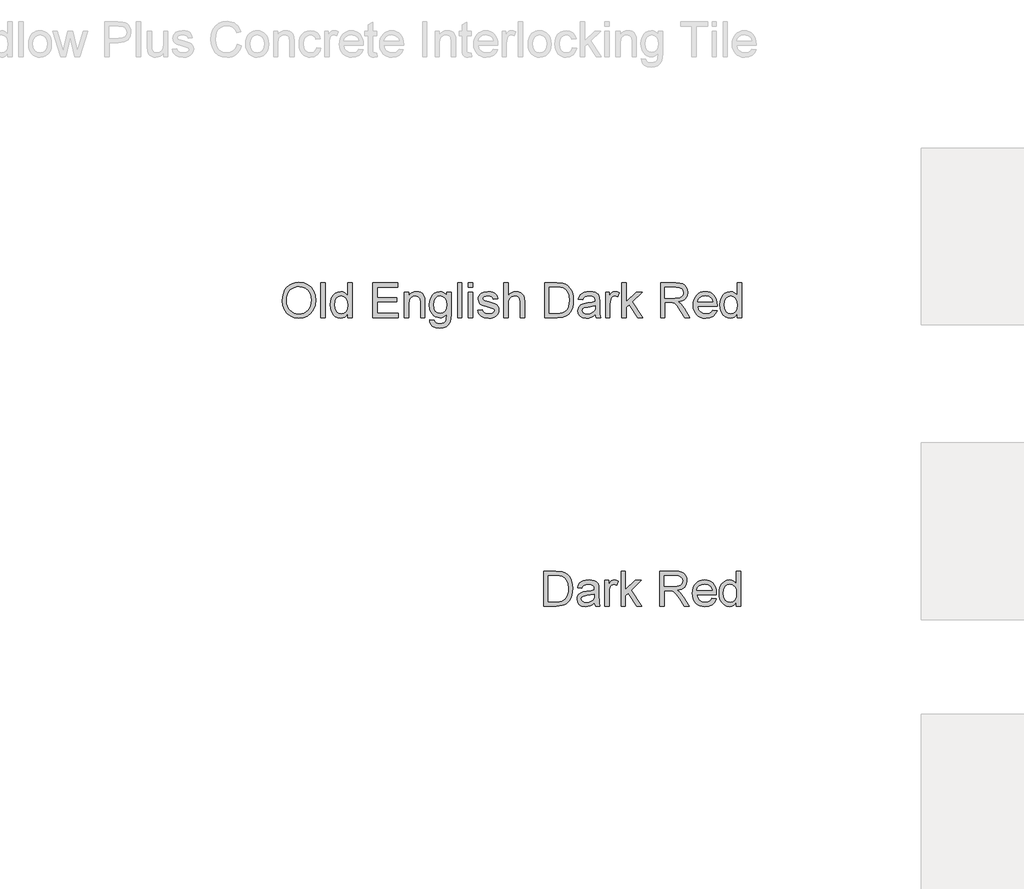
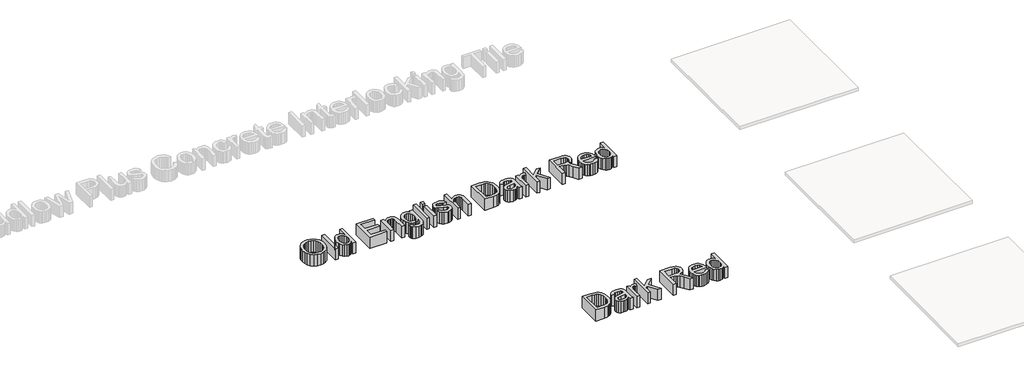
# One storey, part 4 of 5: 2 proxies.
"""IFC4 building model written with IfcOpenShell, lengths in millimetres."""

from ifc_helpers import new_model, si_unit, frame, origin, place, context, project, spatial, polyline, outline, extrude, element, save

model = new_model("IFC4")

# Units and contexts
model_context = context("Model", 3, world=origin())
ifc_project = project(units=[si_unit("LENGTHUNIT", "METRE", prefix="MILLI")], contexts=[model_context])

# Site, building, storey
site = spatial("IfcSite", under=ifc_project)
building = spatial("IfcBuilding", under=site)
storey = spatial("IfcBuildingStorey", under=building, Name="Marley Concrete Interlocking Tile", Elevation=3000.0)

# Proxies
placement = place(None, origin())
element("IfcBuildingElementProxy", 1, Name="600mm Arial", ObjectType="600mm Arial", at=placement, inside=storey, context=model_context, shape_type="SweptSolid", body=[
    extrude(outline(polyline([(-16777.6867576, 3828.6416065), (-16775.2258201, 3863.2885416), (-16767.8430076, 3893.9601161), (-16755.5383201, 3920.6563301), (-16738.3117576, 3943.3771834), (-16717.1954715, 3961.5187099), (-16693.2216134, 3974.476943), (-16666.3901831, 3982.251883), (-16636.7011807, 3984.8435296), (-16597.9571903, 3979.9757411), (-16563.2156038, 3965.3723757), (-16534.3694499, 3942.0610777), (-16513.3117576, 3911.0694911), (-16500.4391615, 3873.8940104), (-16496.1482961, 3832.0310296), (-16500.664522, 3789.6091546), (-16514.2131999, 3751.9108373), (-16536.0461326, 3720.8651642), (-16565.415123, 3698.4012219), (-16599.8592336, 3684.7714142), (-16636.9175268, 3680.228145), (-16676.2564691, 3685.2491786), (-16711.196373, 3700.3122796), (-16739.9704115, 3724.05627), (-16760.8117576, 3755.1199719), (-16773.4680076, 3790.8621594), (-16777.6867576, 3828.6416065)]), holes=[polyline([(-16740.7636807, 3828.2810296), (-16738.9179776, 3803.8023637), (-16733.3808682, 3782.0730969), (-16724.1523526, 3763.0932291), (-16711.2324307, 3746.8627604), (-16695.5270521, 3733.8639623), (-16677.9421663, 3724.5791065), (-16658.4777732, 3719.008193), (-16637.133873, 3717.1512219), (-16615.4248886, 3719.0262219), (-16595.7306278, 3724.6512219), (-16578.0510905, 3734.0262219), (-16562.3862768, 3747.1512219), (-16549.5610064, 3763.7242387), (-16540.400099, 3783.4432892), (-16534.9035545, 3806.3083733), (-16533.071373, 3832.3194911), (-16536.2083922, 3865.0057892), (-16545.6194499, 3893.2569911), (-16561.0611566, 3916.3609575), (-16582.290123, 3933.6055488), (-16607.900099, 3944.3417267), (-16636.4848345, 3947.9204527), (-16657.0872985, 3946.1964442), (-16676.2023826, 3941.024419), (-16693.8300869, 3932.4043769), (-16709.9704115, 3920.336318), (-16723.4424667, 3904.238812), (-16733.0653634, 3883.5304286), (-16738.8391014, 3858.2111678), (-16740.7636807, 3828.2810296)])]), frame((0.0, 0.0, 3000.0), z_axis=(0.0, 0.0, 1.0), x_axis=(1.0, 0.0, 0.0)), (0.0, 0.0, 1.0), 150.0),
    extrude(outline(polyline([(-16449.9944499, 3684.8435296), (-16449.9944499, 3980.228145), (-16413.071373, 3980.228145), (-16413.071373, 3684.8435296), (-16449.9944499, 3684.8435296)])), frame((0.0, 0.0, 3000.0), z_axis=(0.0, 0.0, 1.0), x_axis=(1.0, 0.0, 0.0)), (0.0, 0.0, 1.0), 150.0),
    extrude(outline(polyline([(-16223.8406038, 3684.8435296), (-16223.8406038, 3719.6752604), (-16234.8877792, 3702.4171474), (-16248.2696903, 3690.0899238), (-16263.9863369, 3682.6935897), (-16282.0377191, 3680.228145), (-16305.9079115, 3683.7978565), (-16327.758873, 3694.5069911), (-16346.2564691, 3711.6073517), (-16360.0665653, 3734.3507411), (-16368.6663249, 3761.8176882), (-16371.5329115, 3793.0887219), (-16368.8916855, 3823.9721354), (-16360.9680076, 3851.8627604), (-16347.7708922, 3875.1740584), (-16329.3093538, 3892.3194911), (-16306.9806278, 3902.8663661), (-16282.1819499, 3906.3819911), (-16264.1170461, 3903.8669671), (-16248.1434884, 3896.321895), (-16234.6038249, 3884.7563902), (-16223.8406038, 3870.180068), (-16223.8406038, 3980.228145), (-16186.9175268, 3980.228145), (-16186.9175268, 3684.8435296), (-16223.8406038, 3684.8435296)]), holes=[polyline([(-16334.6098345, 3793.2329527), (-16330.4451711, 3759.8345152), (-16317.9511807, 3736.0815104), (-16299.7961326, 3721.883794), (-16278.6482961, 3717.1512219), (-16257.509474, 3721.6674479), (-16239.8141615, 3735.2161257), (-16227.8339932, 3758.0496594), (-16223.8406038, 3790.4204527), (-16227.9061086, 3825.8110777), (-16240.102623, 3850.3483373), (-16258.2486566, 3864.68127), (-16280.1627191, 3869.4589142), (-16301.5269018, 3864.8705729), (-16319.0329115, 3851.1055488), (-16330.7156038, 3827.4607171), (-16334.6098345, 3793.2329527)])]), frame((0.0, 0.0, 3000.0), z_axis=(0.0, 0.0, 1.0), x_axis=(1.0, 0.0, 0.0)), (0.0, 0.0, 1.0), 150.0),
    extrude(outline(polyline([(-16011.5329115, 3684.8435296), (-16011.5329115, 3980.228145), (-15799.2252191, 3980.228145), (-15799.2252191, 3943.305068), (-15974.6098345, 3943.305068), (-15974.6098345, 3855.6127604), (-15808.4559884, 3855.6127604), (-15808.4559884, 3818.6896834), (-15974.6098345, 3818.6896834), (-15974.6098345, 3721.7666065), (-15794.6098345, 3721.7666065), (-15794.6098345, 3684.8435296), (-16011.5329115, 3684.8435296)])), frame((0.0, 0.0, 3000.0), z_axis=(0.0, 0.0, 1.0), x_axis=(1.0, 0.0, 0.0)), (0.0, 0.0, 1.0), 150.0),
    extrude(outline(polyline([(-15743.8406038, 3684.8435296), (-15743.8406038, 3901.7666065), (-15706.9175268, 3901.7666065), (-15706.9175268, 3871.478145), (-15694.0900028, 3886.7485777), (-15678.6843538, 3897.6560296), (-15660.7005797, 3904.2005007), (-15640.1386807, 3906.3819911), (-15621.9385605, 3904.6241786), (-15605.2708922, 3899.3507411), (-15591.3706518, 3891.2197315), (-15581.4728153, 3880.8892027), (-15570.4031038, 3853.7377604), (-15568.4559884, 3818.040645), (-15568.4559884, 3684.8435296), (-15605.3790653, 3684.8435296), (-15605.3790653, 3813.0646834), (-15609.633873, 3845.7329527), (-15615.5202913, 3855.4595152), (-15624.6699307, 3863.0045873), (-15636.3976951, 3867.8453325), (-15650.0184884, 3869.4589142), (-15671.6440893, 3865.8351161), (-15690.0785845, 3854.9637219), (-15697.4456218, 3846.0890224), (-15702.7077913, 3833.9601161), (-15706.9175268, 3799.9396834), (-15706.9175268, 3684.8435296), (-15743.8406038, 3684.8435296)])), frame((0.0, 0.0, 3000.0), z_axis=(0.0, 0.0, 1.0), x_axis=(1.0, 0.0, 0.0)), (0.0, 0.0, 1.0), 150.0),
    extrude(outline(polyline([(-15526.9175268, 3666.3819911), (-15489.9944499, 3661.7666065), (-15485.9199307, 3650.228145), (-15478.0232961, 3642.2954527), (-15462.5004595, 3636.1295873), (-15442.1819499, 3634.0742988), (-15420.5112768, 3636.40002), (-15404.3934884, 3643.3771834), (-15393.2156038, 3654.555068), (-15386.3646422, 3669.4829527), (-15383.8406038, 3712.5358373), (-15396.1272624, 3700.4204527), (-15409.8381999, 3691.7666065), (-15424.9734163, 3686.5742988), (-15441.5329115, 3684.8435296), (-15461.7770521, 3686.8582531), (-15479.6008201, 3692.9024238), (-15495.0042155, 3702.9760416), (-15507.9872384, 3717.0791065), (-15518.2884703, 3733.9991786), (-15525.6464932, 3752.523818), (-15531.5329115, 3794.3867988), (-15528.8916855, 3824.1974959), (-15520.9680076, 3851.6103565), (-15508.0413249, 3874.8405248), (-15490.3910845, 3892.103145), (-15468.6212528, 3902.8122796), (-15443.3357961, 3906.3819911), (-15426.0686687, 3904.3627604), (-15410.3970941, 3898.305068), (-15396.3210725, 3888.2089142), (-15383.8406038, 3874.0742988), (-15383.8406038, 3901.7666065), (-15346.9175268, 3901.7666065), (-15346.9175268, 3714.4829527), (-15349.4415653, 3671.2407652), (-15357.0136807, 3642.7642027), (-15370.0575509, 3623.8789863), (-15388.9968538, 3609.4108373), (-15413.4169259, 3600.2161257), (-15442.9031038, 3597.1512219), (-15477.2570701, 3601.4691305), (-15504.3093538, 3614.4228565), (-15514.4979054, 3624.1471654), (-15521.6621182, 3636.0484575), (-15525.801992, 3650.1267327), (-15526.9175268, 3666.3819911)]), holes=[polyline([(-15494.6098345, 3796.9108373), (-15490.6705316, 3763.0436498), (-15478.852623, 3739.759395), (-15461.0851951, 3726.2648036), (-15439.2973345, 3721.7666065), (-15417.6717336, 3726.2377604), (-15399.8141615, 3739.6512219), (-15387.8339932, 3762.6380007), (-15383.8406038, 3795.8291065), (-15387.9511807, 3827.8393229), (-15400.2829115, 3850.8892027), (-15418.4019018, 3864.8164863), (-15439.8742576, 3869.4589142), (-15460.9589932, 3864.8886017), (-15478.6362768, 3851.1776642), (-15490.6164451, 3828.4703325), (-15494.6098345, 3796.9108373)])]), frame((0.0, 0.0, 3000.0), z_axis=(0.0, 0.0, 1.0), x_axis=(1.0, 0.0, 0.0)), (0.0, 0.0, 1.0), 150.0),
    extrude(outline(polyline([(-15291.5329115, 3684.8435296), (-15291.5329115, 3980.228145), (-15254.6098345, 3980.228145), (-15254.6098345, 3684.8435296), (-15291.5329115, 3684.8435296)])), frame((0.0, 0.0, 3000.0), z_axis=(0.0, 0.0, 1.0), x_axis=(1.0, 0.0, 0.0)), (0.0, 0.0, 1.0), 150.0),
    extrude(outline(polyline([(-15199.2252191, 3684.8435296), (-15199.2252191, 3901.7666065), (-15162.3021422, 3901.7666065), (-15162.3021422, 3684.8435296), (-15199.2252191, 3684.8435296)])), frame((0.0, 0.0, 3000.0), z_axis=(0.0, 0.0, 1.0), x_axis=(1.0, 0.0, 0.0)), (0.0, 0.0, 1.0), 150.0),
    extrude(outline(polyline([(-15199.2252191, 3943.305068), (-15199.2252191, 3980.228145), (-15162.3021422, 3980.228145), (-15162.3021422, 3943.305068), (-15199.2252191, 3943.305068)])), frame((0.0, 0.0, 3000.0), z_axis=(0.0, 0.0, 1.0), x_axis=(1.0, 0.0, 0.0)), (0.0, 0.0, 1.0), 150.0),
    extrude(outline(polyline([(-15120.7636807, 3749.4589142), (-15083.8406038, 3754.0742988), (-15078.0172865, 3738.2810296), (-15066.7492576, 3726.6704527), (-15049.9644018, 3719.5310296), (-15027.5906038, 3717.1512219), (-15005.4872384, 3719.3327123), (-14989.946373, 3725.8771834), (-14980.7516615, 3735.3603565), (-14977.6867576, 3746.3579527), (-14980.7696903, 3755.7690104), (-14990.0184884, 3762.9444911), (-15028.0232961, 3773.4733373), (-15083.6242576, 3791.5382411), (-15097.695772, 3800.6157652), (-15107.8910845, 3812.6319911), (-15114.0839932, 3826.820693), (-15116.1482961, 3842.415645), (-15114.4896422, 3856.7215344), (-15109.5136807, 3869.9276642), (-15101.6711326, 3881.5111979), (-15091.4127191, 3890.9492988), (-15067.9391615, 3901.8747796), (-15036.1723345, 3906.3819911), (-15012.1398826, 3904.5700921), (-14991.2444499, 3899.134395), (-14974.4415653, 3890.6067507), (-14962.6867576, 3879.5190104), (-14954.8982961, 3865.0508613), (-14949.9944499, 3846.3819911), (-14986.9175268, 3841.7666065), (-14991.5779836, 3853.3861979), (-15000.7997384, 3862.1392027), (-15014.6729355, 3867.6289863), (-15033.2877191, 3869.4589142), (-15054.4896422, 3867.7101161), (-15068.6242576, 3862.4637219), (-15076.5749788, 3854.8916065), (-15079.2252191, 3846.165645), (-15074.8261807, 3835.4204527), (-15061.0521422, 3827.2714142), (-15029.2492576, 3819.4108373), (-14975.0545461, 3802.0310296), (-14960.7396422, 3793.7197315), (-14949.8862768, 3782.3435296), (-14943.0443297, 3767.8663661), (-14940.7636807, 3750.2521834), (-14943.4409643, 3732.0430488), (-14951.4728153, 3714.915645), (-14964.5527432, 3700.2131209), (-14982.3742576, 3689.2786257), (-15003.9006999, 3682.4907652), (-15028.0954115, 3680.228145), (-15065.3249788, 3684.5911257), (-15092.4944499, 3697.680068), (-15110.6314691, 3719.3507411), (-15120.7636807, 3749.4589142)])), frame((0.0, 0.0, 3000.0), z_axis=(0.0, 0.0, 1.0), x_axis=(1.0, 0.0, 0.0)), (0.0, 0.0, 1.0), 150.0),
    extrude(outline(polyline([(-14899.2252191, 3684.8435296), (-14899.2252191, 3980.228145), (-14862.3021422, 3980.228145), (-14862.3021422, 3871.6223757), (-14848.7399427, 3886.8297075), (-14833.5100749, 3897.6920873), (-14816.6125389, 3904.2095152), (-14798.0473345, 3906.3819911), (-14775.7456518, 3904.0111979), (-14756.5809884, 3896.898818), (-14741.4908441, 3885.6037459), (-14731.4127191, 3870.6848757), (-14725.7336326, 3850.1860777), (-14723.8406038, 3822.1512219), (-14723.8406038, 3684.8435296), (-14760.7636807, 3684.8435296), (-14760.7636807, 3818.3291065), (-14763.7023826, 3841.4420873), (-14772.5184884, 3857.2714142), (-14786.7252191, 3866.4120392), (-14805.8357961, 3869.4589142), (-14821.4397624, 3867.4036257), (-14836.0881999, 3861.2377604), (-14848.2216134, 3851.55627), (-14856.2805076, 3838.9541065), (-14860.7967336, 3822.2053084), (-14862.3021422, 3800.0839142), (-14862.3021422, 3684.8435296), (-14899.2252191, 3684.8435296)])), frame((0.0, 0.0, 3000.0), z_axis=(0.0, 0.0, 1.0), x_axis=(1.0, 0.0, 0.0)), (0.0, 0.0, 1.0), 150.0),
    extrude(outline(polyline([(-14553.071373, 3684.8435296), (-14553.071373, 3980.228145), (-14451.1723345, 3980.228145), (-14398.4559884, 3975.9733373), (-14374.9103153, 3967.7702123), (-14355.0425268, 3954.8435296), (-14334.6158441, 3932.3435296), (-14320.0665653, 3904.3627604), (-14311.3586326, 3871.4420873), (-14308.4559884, 3834.1223757), (-14310.4211326, 3802.4186498), (-14316.3165653, 3774.5190104), (-14325.2949307, 3750.7660055), (-14336.508873, 3731.5021834), (-14349.4175268, 3716.2948517), (-14363.4800268, 3704.711318), (-14379.6248586, 3696.1205729), (-14398.7805076, 3689.8916065), (-14446.2684884, 3684.8435296), (-14553.071373, 3684.8435296)]), holes=[polyline([(-14516.1482961, 3721.7666065), (-14450.8117576, 3721.7666065), (-14423.7865172, 3723.1007411), (-14403.2877191, 3727.103145), (-14387.8189691, 3733.539443), (-14375.883873, 3742.1752604), (-14363.056349, 3758.1578325), (-14353.4199307, 3778.8459334), (-14347.3892816, 3804.3297075), (-14345.3790653, 3834.6992988), (-14349.3183682, 3874.9396834), (-14361.1362768, 3904.6512219), (-14378.5972143, 3925.0598757), (-14399.4656038, 3937.3916065), (-14420.7035845, 3941.8267027), (-14451.821373, 3943.305068), (-14516.1482961, 3943.305068), (-14516.1482961, 3721.7666065)])]), frame((0.0, 0.0, 3000.0), z_axis=(0.0, 0.0, 1.0), x_axis=(1.0, 0.0, 0.0)), (0.0, 0.0, 1.0), 150.0),
    extrude(outline(polyline([(-14123.8406038, 3712.5358373), (-14141.4818297, 3697.4096354), (-14159.6458922, 3687.5117988), (-14178.7474547, 3682.0490584), (-14199.2011807, 3680.228145), (-14230.0575509, 3684.6091546), (-14252.8189691, 3697.7521834), (-14266.8544259, 3717.7101161), (-14271.5329115, 3742.5358373), (-14269.7660845, 3757.8423277), (-14264.4656038, 3771.742568), (-14256.289522, 3783.6416065), (-14245.8958922, 3792.9444911), (-14220.0425268, 3805.0598757), (-14188.0954115, 3810.6127604), (-14150.3430076, 3816.4541065), (-14124.0569499, 3823.305068), (-14123.8406038, 3831.5262219), (-14126.3826711, 3848.0045873), (-14134.008873, 3858.7858373), (-14151.0641615, 3866.790645), (-14174.8261807, 3869.4589142), (-14196.821373, 3867.6830729), (-14212.1819499, 3862.3555488), (-14222.6567095, 3852.5027844), (-14229.9944499, 3837.1512219), (-14266.9175268, 3841.7666065), (-14260.508272, 3861.9589142), (-14250.9439691, 3877.8242988), (-14237.3321903, 3889.9577123), (-14218.7805076, 3898.9541065), (-14196.0912047, 3904.52502), (-14170.0665653, 3906.3819911), (-14145.1056278, 3904.7413661), (-14125.3189691, 3899.8194911), (-14110.400099, 3892.4186498), (-14100.0425268, 3883.3411257), (-14093.1735365, 3872.118169), (-14088.7204115, 3858.2810296), (-14086.9175268, 3825.9733373), (-14086.9175268, 3780.0358373), (-14085.0425268, 3715.8892027), (-14077.6867576, 3684.8435296), (-14114.6098345, 3684.8435296), (-14123.8406038, 3712.5358373)]), holes=[polyline([(-14123.8406038, 3786.3819911), (-14183.4079115, 3775.0598757), (-14215.1747384, 3769.0742988), (-14229.5617576, 3759.3387219), (-14234.6098345, 3745.1319911), (-14231.8604355, 3734.1524238), (-14223.6122384, 3725.1560296), (-14210.0455316, 3719.1524238), (-14191.3406038, 3717.1512219), (-14171.508873, 3719.3597555), (-14153.9848345, 3725.9853565), (-14139.7781038, 3735.7479767), (-14129.8982961, 3747.367568), (-14125.5172865, 3759.3387219), (-14124.0569499, 3775.9252604), (-14123.8406038, 3786.3819911)])]), frame((0.0, 0.0, 3000.0), z_axis=(0.0, 0.0, 1.0), x_axis=(1.0, 0.0, 0.0)), (0.0, 0.0, 1.0), 150.0),
    extrude(outline(polyline([(-14036.1482961, 3684.8435296), (-14036.1482961, 3901.7666065), (-14003.8406038, 3901.7666065), (-14003.8406038, 3869.6752604), (-13991.9055076, 3888.2810296), (-13980.9079115, 3899.242568), (-13969.8742576, 3904.5971354), (-13957.8309884, 3906.3819911), (-13939.4415653, 3903.5334334), (-13920.7636807, 3894.9877604), (-13933.0954115, 3861.8867988), (-13946.0761807, 3867.5658854), (-13959.0569499, 3869.4589142), (-13970.0815893, 3867.6380007), (-13979.9343538, 3862.1752604), (-13987.8940893, 3853.4853565), (-13993.2396422, 3841.9829527), (-13997.7288249, 3821.3579527), (-13999.2252191, 3798.8579527), (-13999.2252191, 3684.8435296), (-14036.1482961, 3684.8435296)])), frame((0.0, 0.0, 3000.0), z_axis=(0.0, 0.0, 1.0), x_axis=(1.0, 0.0, 0.0)), (0.0, 0.0, 1.0), 150.0),
    extrude(outline(polyline([(-13897.6867576, 3684.8435296), (-13897.6867576, 3980.228145), (-13860.7636807, 3980.228145), (-13860.7636807, 3821.5021834), (-13777.9752191, 3901.7666065), (-13726.9175268, 3901.7666065), (-13810.7156038, 3820.492568), (-13722.3021422, 3684.8435296), (-13765.4271422, 3684.8435296), (-13837.1819499, 3794.8194911), (-13860.7636807, 3771.9589142), (-13860.7636807, 3684.8435296), (-13897.6867576, 3684.8435296)])), frame((0.0, 0.0, 3000.0), z_axis=(0.0, 0.0, 1.0), x_axis=(1.0, 0.0, 0.0)), (0.0, 0.0, 1.0), 150.0),
    extrude(outline(polyline([(-13569.9944499, 3684.8435296), (-13569.9944499, 3980.228145), (-13442.7107961, 3980.228145), (-13408.5010605, 3978.2359575), (-13383.6122384, 3972.259395), (-13365.4211326, 3961.2257411), (-13351.3045461, 3944.0622796), (-13342.2450509, 3922.7792267), (-13339.2252191, 3899.3867988), (-13344.228224, 3870.2882411), (-13359.2372384, 3846.165645), (-13370.6066795, 3836.3354166), (-13384.7029836, 3828.4793469), (-13421.0761807, 3818.6896834), (-13400.0906038, 3802.8964142), (-13370.1627191, 3764.8916065), (-13320.9079115, 3684.8435296), (-13363.8165653, 3684.8435296), (-13402.2540653, 3746.0694911), (-13430.0184884, 3786.5983373), (-13449.5256999, 3805.7449719), (-13467.0857961, 3812.7762219), (-13488.5040653, 3814.0742988), (-13533.071373, 3814.0742988), (-13533.071373, 3684.8435296), (-13569.9944499, 3684.8435296)]), holes=[polyline([(-13533.071373, 3850.9973757), (-13450.4271422, 3850.9973757), (-13426.6921663, 3852.3044671), (-13408.2756999, 3856.2257411), (-13394.4115172, 3863.0226161), (-13384.3333922, 3872.9565104), (-13378.1945701, 3884.9727363), (-13376.1482961, 3898.0166065), (-13380.0515413, 3916.0274238), (-13391.7612768, 3930.540645), (-13411.9085124, 3940.1139623), (-13441.1242576, 3943.305068), (-13533.071373, 3943.305068), (-13533.071373, 3850.9973757)])]), frame((0.0, 0.0, 3000.0), z_axis=(0.0, 0.0, 1.0), x_axis=(1.0, 0.0, 0.0)), (0.0, 0.0, 1.0), 150.0),
    extrude(outline(polyline([(-13127.3502191, 3749.4589142), (-13091.1482961, 3744.8435296), (-13104.1921663, 3717.5658854), (-13125.0064691, 3697.1752604), (-13153.1224547, 3684.4649238), (-13188.071373, 3680.228145), (-13210.9815292, 3682.0558192), (-13231.3946903, 3687.5388421), (-13249.3108562, 3696.6772135), (-13264.7300268, 3709.4709334), (-13277.1293658, 3725.5639322), (-13285.9860365, 3744.6001402), (-13291.3000389, 3766.5795572), (-13293.071373, 3791.5021834), (-13291.28201, 3817.2699118), (-13285.9139211, 3839.9817507), (-13276.9671062, 3859.6377003), (-13264.4415653, 3876.2377604), (-13249.0629595, 3889.4258613), (-13231.5569499, 3898.8459334), (-13211.9235365, 3904.4979767), (-13190.1627191, 3906.3819911), (-13169.1027732, 3904.5024839), (-13150.0575509, 3898.8639623), (-13133.0270521, 3889.4664262), (-13118.0112768, 3876.3098757), (-13105.7539151, 3859.7458733), (-13096.9986566, 3840.1259815), (-13091.7455016, 3817.4502003), (-13089.9944499, 3791.7185296), (-13090.2107961, 3781.7666065), (-13256.1482961, 3781.7666065), (-13249.7570701, 3754.1283854), (-13234.9103153, 3733.8098757), (-13213.4830316, 3721.3158854), (-13187.3502191, 3717.1512219), (-13167.6987768, 3719.0803084), (-13151.1482961, 3724.867568), (-13137.6987768, 3734.8735777), (-13127.3502191, 3749.4589142)]), holes=[polyline([(-13256.1482961, 3818.6896834), (-13126.9175268, 3818.6896834), (-13131.9115172, 3838.196895), (-13141.7011807, 3852.1512219), (-13163.227623, 3865.1319911), (-13190.3069499, 3869.4589142), (-13215.195772, 3866.0063902), (-13235.7756999, 3855.648818), (-13250.0815893, 3839.5039863), (-13256.1482961, 3818.6896834)])]), frame((0.0, 0.0, 3000.0), z_axis=(0.0, 0.0, 1.0), x_axis=(1.0, 0.0, 0.0)), (0.0, 0.0, 1.0), 150.0),
    extrude(outline(polyline([(-12919.2252191, 3684.8435296), (-12919.2252191, 3719.6752604), (-12930.2723946, 3702.4171474), (-12943.6543057, 3690.0899238), (-12959.3709523, 3682.6935897), (-12977.4223345, 3680.228145), (-13001.2925268, 3683.7978565), (-13023.1434884, 3694.5069911), (-13041.6410845, 3711.6073517), (-13055.4511807, 3734.3507411), (-13064.0509403, 3761.8176882), (-13066.9175268, 3793.0887219), (-13064.2763009, 3823.9721354), (-13056.352623, 3851.8627604), (-13043.1555076, 3875.1740584), (-13024.6939691, 3892.3194911), (-13002.3652432, 3902.8663661), (-12977.5665653, 3906.3819911), (-12959.5016615, 3903.8669671), (-12943.5281038, 3896.321895), (-12929.9884403, 3884.7563902), (-12919.2252191, 3870.180068), (-12919.2252191, 3980.228145), (-12882.3021422, 3980.228145), (-12882.3021422, 3684.8435296), (-12919.2252191, 3684.8435296)]), holes=[polyline([(-13029.9944499, 3793.2329527), (-13025.8297865, 3759.8345152), (-13013.3357961, 3736.0815104), (-12995.180748, 3721.883794), (-12974.0329115, 3717.1512219), (-12952.8940893, 3721.6674479), (-12935.1987768, 3735.2161257), (-12923.2186086, 3758.0496594), (-12919.2252191, 3790.4204527), (-12923.290724, 3825.8110777), (-12935.4872384, 3850.3483373), (-12953.633272, 3864.68127), (-12975.5473345, 3869.4589142), (-12996.9115172, 3864.8705729), (-13014.4175268, 3851.1055488), (-13026.1002191, 3827.4607171), (-13029.9944499, 3793.2329527)])]), frame((0.0, 0.0, 3000.0), z_axis=(0.0, 0.0, 1.0), x_axis=(1.0, 0.0, 0.0)), (0.0, 0.0, 1.0), 150.0),
])
element("IfcBuildingElementProxy", 2, Name="600mm Arial", ObjectType="600mm Arial", at=placement, inside=storey, context=model_context, shape_type="SweptSolid", body=[
    extrude(outline(polyline([(-14559.8660505, 1239.3040272), (-14559.8660505, 1534.6886425), (-14457.967012, 1534.6886425), (-14405.2506658, 1530.4338349), (-14381.7049928, 1522.2307099), (-14361.8372043, 1509.3040272), (-14341.4105216, 1486.8040272), (-14326.8612428, 1458.8232579), (-14318.1533101, 1425.9025849), (-14315.2506658, 1388.5828733), (-14317.2158101, 1356.8791474), (-14323.1112428, 1328.9795079), (-14332.0896081, 1305.2265031), (-14343.3035505, 1285.962681), (-14356.2122043, 1270.7553493), (-14370.2747043, 1259.1718156), (-14386.419536, 1250.5810704), (-14405.5751851, 1244.3521041), (-14453.0631658, 1239.3040272), (-14559.8660505, 1239.3040272)]), holes=[polyline([(-14522.9429735, 1276.2271041), (-14457.6064351, 1276.2271041), (-14430.5811947, 1277.5612387), (-14410.0823966, 1281.5636425), (-14394.6136466, 1287.9999406), (-14382.6785505, 1296.6357579), (-14369.8510264, 1312.61833), (-14360.2146081, 1333.306431), (-14354.1839591, 1358.790205), (-14352.1737428, 1389.1597964), (-14356.1130456, 1429.400181), (-14367.9309543, 1459.1117195), (-14385.3918918, 1479.5203733), (-14406.2602812, 1491.8521041), (-14427.498262, 1496.2872002), (-14458.6160505, 1497.7655656), (-14522.9429735, 1497.7655656), (-14522.9429735, 1276.2271041)])]), frame((0.0, 0.0, 3000.0), z_axis=(0.0, 0.0, 1.0), x_axis=(1.0, 0.0, 0.0)), (0.0, 0.0, 1.0), 150.0),
    extrude(outline(polyline([(-14130.6352812, 1266.9963349), (-14148.2765072, 1251.8701329), (-14166.4405697, 1241.9722964), (-14185.5421322, 1236.509556), (-14205.9958581, 1234.6886425), (-14236.8522283, 1239.0696522), (-14259.6136466, 1252.212681), (-14273.6491033, 1272.1706137), (-14278.3275889, 1296.9963349), (-14276.560762, 1312.3028252), (-14271.2602812, 1326.2030656), (-14263.0841995, 1338.1021041), (-14252.6905697, 1347.4049887), (-14226.8372043, 1359.5203733), (-14194.8900889, 1365.0732579), (-14157.1376851, 1370.9146041), (-14130.8516274, 1377.7655656), (-14130.6352812, 1385.9867195), (-14133.1773485, 1402.4650849), (-14140.8035505, 1413.2463349), (-14157.8588389, 1421.2511425), (-14181.6208581, 1423.9194118), (-14203.6160505, 1422.1435704), (-14218.9766274, 1416.8160464), (-14229.451387, 1406.963282), (-14236.7891274, 1391.6117195), (-14273.7122043, 1396.2271041), (-14267.3029495, 1416.4194118), (-14257.7386466, 1432.2847964), (-14244.1268678, 1444.4182099), (-14225.5751851, 1453.4146041), (-14202.8858822, 1458.9855175), (-14176.8612428, 1460.8424887), (-14151.9003053, 1459.2018637), (-14132.1136466, 1454.2799887), (-14117.1947764, 1446.8791474), (-14106.8372043, 1437.8016233), (-14099.9682139, 1426.5786666), (-14095.5150889, 1412.7415272), (-14093.7122043, 1380.4338349), (-14093.7122043, 1334.4963349), (-14091.8372043, 1270.3497002), (-14084.4814351, 1239.3040272), (-14121.404512, 1239.3040272), (-14130.6352812, 1266.9963349)]), holes=[polyline([(-14130.6352812, 1340.8424887), (-14190.2025889, 1329.5203733), (-14221.9694158, 1323.5347964), (-14236.3564351, 1313.7992195), (-14241.404512, 1299.5924887), (-14238.655113, 1288.6129214), (-14230.4069158, 1279.6165272), (-14216.8402091, 1273.6129214), (-14198.1352812, 1271.6117195), (-14178.3035505, 1273.8202531), (-14160.779512, 1280.4458541), (-14146.5727812, 1290.2084743), (-14136.6929735, 1301.8280656), (-14132.3119639, 1313.7992195), (-14130.8516274, 1330.3857579), (-14130.6352812, 1340.8424887)])]), frame((0.0, 0.0, 3000.0), z_axis=(0.0, 0.0, 1.0), x_axis=(1.0, 0.0, 0.0)), (0.0, 0.0, 1.0), 150.0),
    extrude(outline(polyline([(-14042.9429735, 1239.3040272), (-14042.9429735, 1456.2271041), (-14010.6352812, 1456.2271041), (-14010.6352812, 1424.1357579), (-13998.7001851, 1442.7415272), (-13987.7025889, 1453.7030656), (-13976.6689351, 1459.0576329), (-13964.6256658, 1460.8424887), (-13946.2362428, 1457.993931), (-13927.5583581, 1449.4482579), (-13939.8900889, 1416.3472964), (-13952.8708581, 1422.0263829), (-13965.8516274, 1423.9194118), (-13976.8762668, 1422.0984983), (-13986.7290312, 1416.6357579), (-13994.6887668, 1407.9458541), (-14000.0343197, 1396.4434502), (-14004.5235024, 1375.8184502), (-14006.0198966, 1353.3184502), (-14006.0198966, 1239.3040272), (-14042.9429735, 1239.3040272)])), frame((0.0, 0.0, 3000.0), z_axis=(0.0, 0.0, 1.0), x_axis=(1.0, 0.0, 0.0)), (0.0, 0.0, 1.0), 150.0),
    extrude(outline(polyline([(-13904.4814351, 1239.3040272), (-13904.4814351, 1534.6886425), (-13867.5583581, 1534.6886425), (-13867.5583581, 1375.962681), (-13784.7698966, 1456.2271041), (-13733.7122043, 1456.2271041), (-13817.5102812, 1374.9530656), (-13729.0968197, 1239.3040272), (-13772.2218197, 1239.3040272), (-13843.9766274, 1349.2799887), (-13867.5583581, 1326.4194118), (-13867.5583581, 1239.3040272), (-13904.4814351, 1239.3040272)])), frame((0.0, 0.0, 3000.0), z_axis=(0.0, 0.0, 1.0), x_axis=(1.0, 0.0, 0.0)), (0.0, 0.0, 1.0), 150.0),
    extrude(outline(polyline([(-13576.7891274, 1239.3040272), (-13576.7891274, 1534.6886425), (-13449.5054735, 1534.6886425), (-13415.295738, 1532.696455), (-13390.4069158, 1526.7198925), (-13372.2158101, 1515.6862387), (-13358.0992235, 1498.5227772), (-13349.0397283, 1477.2397243), (-13346.0198966, 1453.8472964), (-13351.0229014, 1424.7487387), (-13366.0319158, 1400.6261425), (-13377.4013569, 1390.7959142), (-13391.497661, 1382.9398445), (-13427.8708581, 1373.150181), (-13406.8852812, 1357.3569118), (-13376.9573966, 1319.3521041), (-13327.7025889, 1239.3040272), (-13370.6112428, 1239.3040272), (-13409.0487428, 1300.5299887), (-13436.8131658, 1341.0588349), (-13456.3203774, 1360.2054695), (-13473.8804735, 1367.2367195), (-13495.2987428, 1368.5347964), (-13539.8660505, 1368.5347964), (-13539.8660505, 1239.3040272), (-13576.7891274, 1239.3040272)]), holes=[polyline([(-13539.8660505, 1405.4578733), (-13457.2218197, 1405.4578733), (-13433.4868437, 1406.7649647), (-13415.0703774, 1410.6862387), (-13401.2061947, 1417.4831137), (-13391.1280697, 1427.4170079), (-13384.9892476, 1439.4332339), (-13382.9429735, 1452.4771041), (-13386.8462187, 1470.4879214), (-13398.5559543, 1485.0011425), (-13418.7031899, 1494.5744599), (-13447.9189351, 1497.7655656), (-13539.8660505, 1497.7655656), (-13539.8660505, 1405.4578733)])]), frame((0.0, 0.0, 3000.0), z_axis=(0.0, 0.0, 1.0), x_axis=(1.0, 0.0, 0.0)), (0.0, 0.0, 1.0), 150.0),
    extrude(outline(polyline([(-13134.1448966, 1303.9194118), (-13097.9429735, 1299.3040272), (-13110.9868437, 1272.0263829), (-13131.8011466, 1251.6357579), (-13159.9171322, 1238.9254214), (-13194.8660505, 1234.6886425), (-13217.7762067, 1236.5163168), (-13238.1893678, 1241.9993397), (-13256.1055336, 1251.1377111), (-13271.5247043, 1263.931431), (-13283.9240432, 1280.0244298), (-13292.7807139, 1299.0606377), (-13298.0947163, 1321.0400548), (-13299.8660505, 1345.962681), (-13298.0766875, 1371.7304094), (-13292.7085985, 1394.4422483), (-13283.7617836, 1414.0981978), (-13271.2362428, 1430.6982579), (-13255.857637, 1443.8863589), (-13238.3516274, 1453.306431), (-13218.7182139, 1458.9584743), (-13196.9573966, 1460.8424887), (-13175.8974507, 1458.9629815), (-13156.8522283, 1453.3244599), (-13139.8217295, 1443.9269238), (-13124.8059543, 1430.7703733), (-13112.5485925, 1414.2063709), (-13103.7933341, 1394.5864791), (-13098.5401791, 1371.9106978), (-13096.7891274, 1346.1790272), (-13097.0054735, 1336.2271041), (-13262.9429735, 1336.2271041), (-13256.5517476, 1308.5888829), (-13241.7049928, 1288.2703733), (-13220.2777091, 1275.7763829), (-13194.1448966, 1271.6117195), (-13174.4934543, 1273.540806), (-13157.9429735, 1279.3280656), (-13144.4934543, 1289.3340752), (-13134.1448966, 1303.9194118)]), holes=[polyline([(-13262.9429735, 1373.150181), (-13133.7122043, 1373.150181), (-13138.7061947, 1392.6573925), (-13148.4958581, 1406.6117195), (-13170.0223005, 1419.5924887), (-13197.1016274, 1423.9194118), (-13221.9904495, 1420.4668877), (-13242.5703774, 1410.1093156), (-13256.8762668, 1393.9644839), (-13262.9429735, 1373.150181)])]), frame((0.0, 0.0, 3000.0), z_axis=(0.0, 0.0, 1.0), x_axis=(1.0, 0.0, 0.0)), (0.0, 0.0, 1.0), 150.0),
    extrude(outline(polyline([(-12926.0198966, 1239.3040272), (-12926.0198966, 1274.1357579), (-12937.0670721, 1256.877645), (-12950.4489831, 1244.5504214), (-12966.1656298, 1237.1540873), (-12984.217012, 1234.6886425), (-13008.0872043, 1238.2583541), (-13029.9381658, 1248.9674887), (-13048.435762, 1266.0678493), (-13062.2458581, 1288.8112387), (-13070.8456178, 1316.2781858), (-13073.7122043, 1347.5492195), (-13071.0709783, 1378.4326329), (-13063.1473005, 1406.3232579), (-13049.9501851, 1429.634556), (-13031.4886466, 1446.7799887), (-13009.1599206, 1457.3268637), (-12984.3612428, 1460.8424887), (-12966.2963389, 1458.3274647), (-12950.3227812, 1450.7823925), (-12936.7831178, 1439.2168877), (-12926.0198966, 1424.6405656), (-12926.0198966, 1534.6886425), (-12889.0968197, 1534.6886425), (-12889.0968197, 1239.3040272), (-12926.0198966, 1239.3040272)]), holes=[polyline([(-13036.7891274, 1347.6934502), (-13032.6244639, 1314.2950127), (-13020.1304735, 1290.5420079), (-13001.9754255, 1276.3442916), (-12980.8275889, 1271.6117195), (-12959.6887668, 1276.1279454), (-12941.9934543, 1289.6766233), (-12930.013286, 1312.510157), (-12926.0198966, 1344.8809502), (-12930.0854014, 1380.2715752), (-12942.2819158, 1404.8088349), (-12960.4279495, 1419.1417675), (-12982.342012, 1423.9194118), (-13003.7061947, 1419.3310704), (-13021.2122043, 1405.5660464), (-13032.8948966, 1381.9212147), (-13036.7891274, 1347.6934502)])]), frame((0.0, 0.0, 3000.0), z_axis=(0.0, 0.0, 1.0), x_axis=(1.0, 0.0, 0.0)), (0.0, 0.0, 1.0), 150.0),
])

save(model, "model.ifc")
